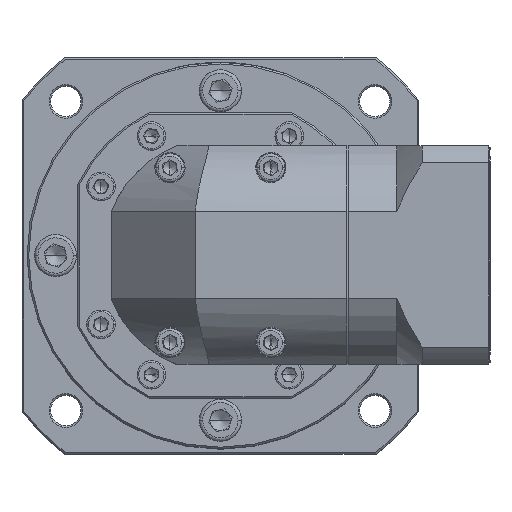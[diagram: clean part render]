
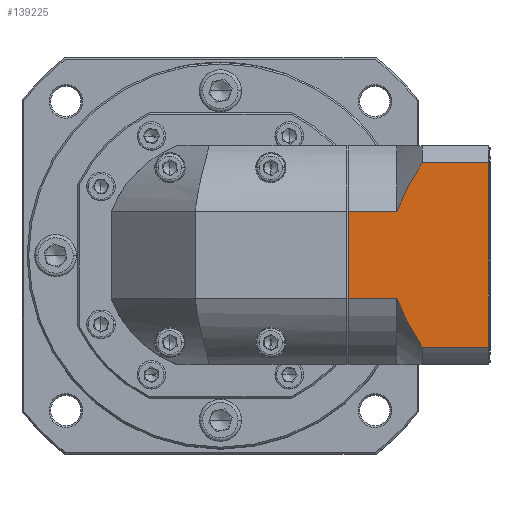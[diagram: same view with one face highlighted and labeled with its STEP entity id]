
A CAD part, top view. The second image highlights one B-rep face of the part: STEP entity #139225.
In plain terms, the highlighted planar face has unit normal (0, 0, 1).
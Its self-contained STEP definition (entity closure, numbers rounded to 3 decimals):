
#3020 = CARTESIAN_POINT ( 'NONE',  ( 100.98, 177.642, 95.789 ) ) ;
#5472 = EDGE_CURVE ( 'NONE', #132187, #89259, #58396, .T. ) ;
#6362 = DIRECTION ( 'NONE',  ( -1., 0., 0. ) ) ;
#8014 = ORIENTED_EDGE ( 'NONE', *, *, #79557, .F. ) ;
#9090 = ORIENTED_EDGE ( 'NONE', *, *, #5472, .T. ) ;
#15161 = CARTESIAN_POINT ( 'NONE',  ( 99.519, 125.138, 95.789 ) ) ;
#23788 = CARTESIAN_POINT ( 'NONE',  ( 94.422, 165.784, 95.789 ) ) ;
#24687 = LINE ( 'NONE', #121427, #90508 ) ;
#24714 = CARTESIAN_POINT ( 'NONE',  ( 97.477, 171.832, 95.789 ) ) ;
#25040 = DIRECTION ( 'NONE',  ( 0., -1., 0. ) ) ;
#26446 = CARTESIAN_POINT ( 'NONE',  ( 78.98, 163.246, 95.789 ) ) ;
#27375 = CARTESIAN_POINT ( 'NONE',  ( 93.48, 163.246, 95.789 ) ) ;
#27453 = CARTESIAN_POINT ( 'NONE',  ( 93.48, 177.642, 95.789 ) ) ;
#28064 = ORIENTED_EDGE ( 'NONE', *, *, #37778, .F. ) ;
#31498 = VECTOR ( 'NONE', #123142, 1000. ) ;
#34263 = CARTESIAN_POINT ( 'NONE',  ( 121.18, 182.756, 95.789 ) ) ;
#35558 = CARTESIAN_POINT ( 'NONE',  ( 100.247, 176.504, 95.789 ) ) ;
#35711 = B_SPLINE_CURVE_WITH_KNOTS ( 'NONE', 3,
 ( #3020, #35558, #109504, #89227, #24714, #100051, #23788, #46777 ),
 .UNSPECIFIED., .F., .F.,
 ( 4, 2, 2, 4 ),
 ( 0.058, 0.062, 0.066, 0.074 ),
 .UNSPECIFIED. ) ;
#36369 = CARTESIAN_POINT ( 'NONE',  ( 93.48, 137.265, 95.789 ) ) ;
#37624 = CARTESIAN_POINT ( 'NONE',  ( 120.68, 122.87, 95.789 ) ) ;
#37778 = EDGE_CURVE ( 'NONE', #125708, #81461, #53304, .T. ) ;
#38878 = VECTOR ( 'NONE', #58235, 1000. ) ;
#40964 = VECTOR ( 'NONE', #55933, 1000. ) ;
#41127 = EDGE_LOOP ( 'NONE', ( #104510, #51852, #28064, #73143, #8014, #9090, #112471, #66235 ) ) ;
#41390 = VERTEX_POINT ( 'NONE', #27375 ) ;
#41976 = FACE_OUTER_BOUND ( 'NONE', #41127, .T. ) ;
#42260 = LINE ( 'NONE', #68093, #38878 ) ;
#46777 = CARTESIAN_POINT ( 'NONE',  ( 93.48, 163.246, 95.789 ) ) ;
#47131 = CARTESIAN_POINT ( 'NONE',  ( 96.226, 131.033, 95.789 ) ) ;
#51852 = ORIENTED_EDGE ( 'NONE', *, *, #128888, .T. ) ;
#53304 = LINE ( 'NONE', #27453, #31498 ) ;
#55933 = DIRECTION ( 'NONE',  ( 1., 0., 0. ) ) ;
#58235 = DIRECTION ( 'NONE',  ( 0., 1., 0. ) ) ;
#58396 = LINE ( 'NONE', #78637, #126069 ) ;
#59422 = B_SPLINE_CURVE_WITH_KNOTS ( 'NONE', 3,
 ( #36369, #68704, #123092, #59788, #69666, #111722, #47131, #70582, #15161, #124507 ),
 .UNSPECIFIED., .F., .F.,
 ( 4, 2, 2, 2, 4 ),
 ( 0.101, 0.103, 0.105, 0.109, 0.117 ),
 .UNSPECIFIED. ) ;
#59788 = CARTESIAN_POINT ( 'NONE',  ( 94.497, 134.723, 95.789 ) ) ;
#62097 = EDGE_CURVE ( 'NONE', #63085, #89345, #69160, .T. ) ;
#63085 = VERTEX_POINT ( 'NONE', #37624 ) ;
#63897 = CARTESIAN_POINT ( 'NONE',  ( 120.68, 177.642, 95.789 ) ) ;
#66235 = ORIENTED_EDGE ( 'NONE', *, *, #83799, .T. ) ;
#68093 = CARTESIAN_POINT ( 'NONE',  ( 120.68, 182.756, 95.789 ) ) ;
#68704 = CARTESIAN_POINT ( 'NONE',  ( 93.719, 136.623, 95.789 ) ) ;
#69160 = LINE ( 'NONE', #113358, #106369 ) ;
#69666 = CARTESIAN_POINT ( 'NONE',  ( 94.771, 134.099, 95.789 ) ) ;
#70582 = CARTESIAN_POINT ( 'NONE',  ( 98.131, 127.452, 95.789 ) ) ;
#72370 = CARTESIAN_POINT ( 'NONE',  ( 100.98, 122.87, 95.789 ) ) ;
#73143 = ORIENTED_EDGE ( 'NONE', *, *, #101977, .T. ) ;
#78637 = CARTESIAN_POINT ( 'NONE',  ( 78.98, 182.756, 95.789 ) ) ;
#79557 = EDGE_CURVE ( 'NONE', #132187, #41390, #116859, .T. ) ;
#81461 = VERTEX_POINT ( 'NONE', #63897 ) ;
#83624 = CARTESIAN_POINT ( 'NONE',  ( 100.98, 177.642, 95.789 ) ) ;
#83799 = EDGE_CURVE ( 'NONE', #132365, #89345, #59422, .T. ) ;
#89227 = CARTESIAN_POINT ( 'NONE',  ( 98.147, 173.018, 95.789 ) ) ;
#89259 = VERTEX_POINT ( 'NONE', #105027 ) ;
#89345 = VERTEX_POINT ( 'NONE', #72370 ) ;
#90508 = VECTOR ( 'NONE', #132712, 1000. ) ;
#92353 = CARTESIAN_POINT ( 'NONE',  ( 93.48, 137.265, 95.789 ) ) ;
#93642 = AXIS2_PLACEMENT_3D ( 'NONE', #34263, #122242, #134009 ) ;
#99352 = CARTESIAN_POINT ( 'NONE',  ( 93.48, 163.246, 95.789 ) ) ;
#100051 = CARTESIAN_POINT ( 'NONE',  ( 95.567, 168.236, 95.789 ) ) ;
#101977 = EDGE_CURVE ( 'NONE', #125708, #41390, #35711, .T. ) ;
#104062 = PLANE ( 'NONE',  #93642 ) ;
#104510 = ORIENTED_EDGE ( 'NONE', *, *, #62097, .F. ) ;
#105027 = CARTESIAN_POINT ( 'NONE',  ( 78.98, 137.265, 95.789 ) ) ;
#106369 = VECTOR ( 'NONE', #6362, 1000. ) ;
#109504 = CARTESIAN_POINT ( 'NONE',  ( 99.532, 175.353, 95.789 ) ) ;
#111722 = CARTESIAN_POINT ( 'NONE',  ( 95.621, 132.245, 95.789 ) ) ;
#112471 = ORIENTED_EDGE ( 'NONE', *, *, #113808, .F. ) ;
#113358 = CARTESIAN_POINT ( 'NONE',  ( 93.48, 122.87, 95.789 ) ) ;
#113808 = EDGE_CURVE ( 'NONE', #132365, #89259, #24687, .T. ) ;
#116859 = LINE ( 'NONE', #99352, #40964 ) ;
#121427 = CARTESIAN_POINT ( 'NONE',  ( 93.48, 137.265, 95.789 ) ) ;
#122242 = DIRECTION ( 'NONE',  ( 0., 0., -1. ) ) ;
#123092 = CARTESIAN_POINT ( 'NONE',  ( 93.971, 135.984, 95.789 ) ) ;
#123142 = DIRECTION ( 'NONE',  ( 1., 0., 0. ) ) ;
#124507 = CARTESIAN_POINT ( 'NONE',  ( 100.98, 122.87, 95.789 ) ) ;
#125708 = VERTEX_POINT ( 'NONE', #83624 ) ;
#126069 = VECTOR ( 'NONE', #25040, 1000. ) ;
#128888 = EDGE_CURVE ( 'NONE', #63085, #81461, #42260, .T. ) ;
#132187 = VERTEX_POINT ( 'NONE', #26446 ) ;
#132365 = VERTEX_POINT ( 'NONE', #92353 ) ;
#132712 = DIRECTION ( 'NONE',  ( -1., 0., 0. ) ) ;
#134009 = DIRECTION ( 'NONE',  ( 1., 0., 0. ) ) ;
#139225 = ADVANCED_FACE ( 'NONE', ( #41976 ), #104062, .F. ) ;
